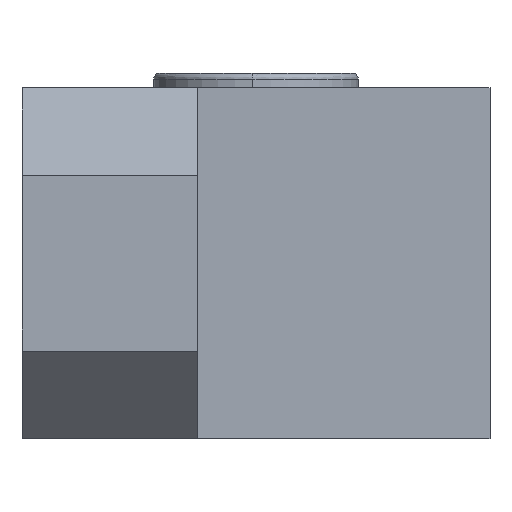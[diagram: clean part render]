
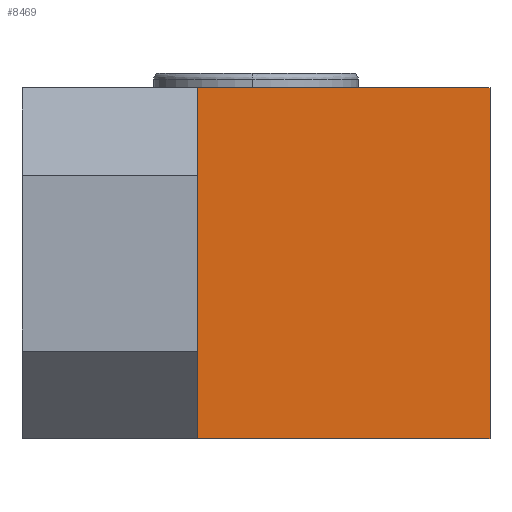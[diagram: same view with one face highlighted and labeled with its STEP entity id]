
A CAD part, left-side view. The second image highlights one B-rep face of the part: STEP entity #8469.
In plain terms, the highlighted planar face has unit normal (-1, 0, 0).
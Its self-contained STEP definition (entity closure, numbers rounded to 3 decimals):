
#184 = DIRECTION ( 'NONE',  ( 0., 0., -1. ) ) ;
#212 = EDGE_CURVE ( 'NONE', #758, #7513, #666, .T. ) ;
#466 = CARTESIAN_POINT ( 'NONE',  ( 4.423, 6.669, 6. ) ) ;
#666 = LINE ( 'NONE', #10818, #2213 ) ;
#758 = VERTEX_POINT ( 'NONE', #7041 ) ;
#1218 = LINE ( 'NONE', #5888, #1356 ) ;
#1356 = VECTOR ( 'NONE', #7756, 1000. ) ;
#1870 = CARTESIAN_POINT ( 'NONE',  ( 4.423, 16.669, 6. ) ) ;
#1953 = CARTESIAN_POINT ( 'NONE',  ( 4.423, 6.669, 0. ) ) ;
#2042 = DIRECTION ( 'NONE',  ( 0., -1., 0. ) ) ;
#2187 = AXIS2_PLACEMENT_3D ( 'NONE', #11191, #5659, #184 ) ;
#2213 = VECTOR ( 'NONE', #3273, 1000. ) ;
#2827 = ORIENTED_EDGE ( 'NONE', *, *, #7322, .F. ) ;
#3273 = DIRECTION ( 'NONE',  ( 0., 1., 0. ) ) ;
#3618 = FACE_OUTER_BOUND ( 'NONE', #5293, .T. ) ;
#4570 = LINE ( 'NONE', #6614, #11615 ) ;
#5209 = VECTOR ( 'NONE', #7474, 1000. ) ;
#5293 = EDGE_LOOP ( 'NONE', ( #7335, #8251, #2827, #9818 ) ) ;
#5430 = VERTEX_POINT ( 'NONE', #466 ) ;
#5502 = LINE ( 'NONE', #1953, #5209 ) ;
#5659 = DIRECTION ( 'NONE',  ( 1., 0., 0. ) ) ;
#5888 = CARTESIAN_POINT ( 'NONE',  ( 4.423, 16.669, 0. ) ) ;
#6614 = CARTESIAN_POINT ( 'NONE',  ( 4.423, 14.669, 6. ) ) ;
#6751 = EDGE_CURVE ( 'NONE', #10741, #5430, #4570, .T. ) ;
#7041 = CARTESIAN_POINT ( 'NONE',  ( 4.423, 6.669, -6. ) ) ;
#7322 = EDGE_CURVE ( 'NONE', #5430, #758, #5502, .T. ) ;
#7335 = ORIENTED_EDGE ( 'NONE', *, *, #10366, .F. ) ;
#7474 = DIRECTION ( 'NONE',  ( 0., 0., -1. ) ) ;
#7485 = PLANE ( 'NONE',  #2187 ) ;
#7513 = VERTEX_POINT ( 'NONE', #7870 ) ;
#7756 = DIRECTION ( 'NONE',  ( 0., 0., 1. ) ) ;
#7870 = CARTESIAN_POINT ( 'NONE',  ( 4.423, 16.669, -6. ) ) ;
#8251 = ORIENTED_EDGE ( 'NONE', *, *, #212, .F. ) ;
#8469 = ADVANCED_FACE ( 'NONE', ( #3618 ), #7485, .F. ) ;
#9818 = ORIENTED_EDGE ( 'NONE', *, *, #6751, .F. ) ;
#10366 = EDGE_CURVE ( 'NONE', #7513, #10741, #1218, .T. ) ;
#10741 = VERTEX_POINT ( 'NONE', #1870 ) ;
#10818 = CARTESIAN_POINT ( 'NONE',  ( 4.423, 11.669, -6. ) ) ;
#11191 = CARTESIAN_POINT ( 'NONE',  ( 4.423, 6.669, 6. ) ) ;
#11615 = VECTOR ( 'NONE', #2042, 1000. ) ;
